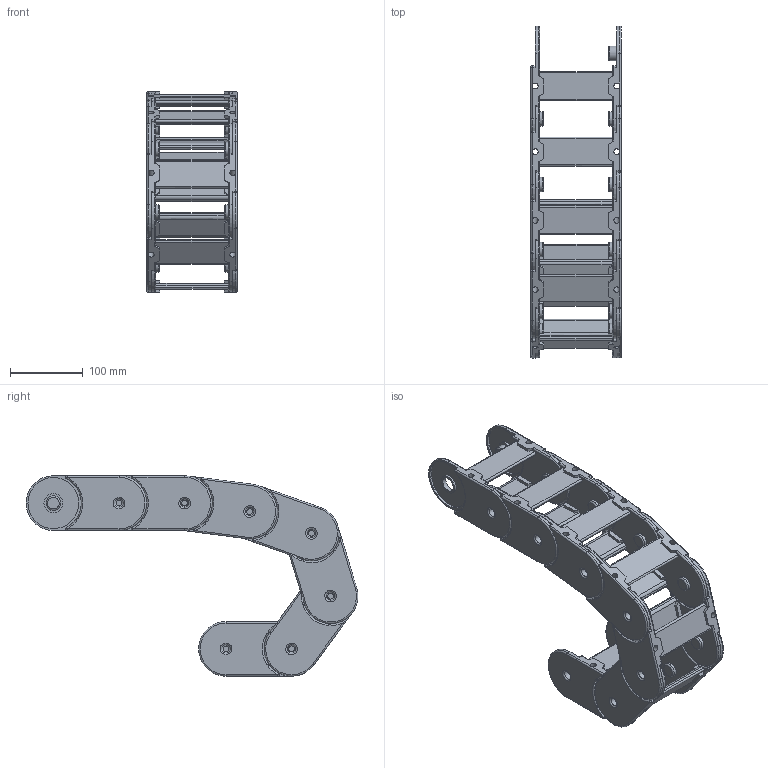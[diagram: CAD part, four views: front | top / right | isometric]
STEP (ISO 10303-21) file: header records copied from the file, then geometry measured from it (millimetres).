
FILE_DESCRIPTION((''),'2;1');
FILE_NAME('E:\Uebbing\PARAMETERKETTEN\PKK\PKK 311\PKK311vereinfacht\PKK 311 vereinfacht.stp','2017-11-13T13:13:36',('Nutzer'),(''),'Autodesk Inventor 10','Autodesk Inventor 10','');
FILE_SCHEMA(('AUTOMOTIVE_DESIGN { 1 0 10303 214 1 1 1 1 }'));
Length unit declared in the file: millimetre
Products named in the file (2): PKK 311 vereinfacht; PKK 311 Glied vereinfacht
Assembly tree (7 placements, depth 2):
  PKK 311 vereinfacht
    PKK 311 Glied vereinfacht  x7
Bounding box: 124 x 455.31 x 275 mm (x, y, z)
Volume: 1227012.3 mm3; surface area: 544492.8 mm2
Topology: 7 solids, 7 shells, 1176 faces, 3066 edges, 1890 vertices
Faces by surface type: plane 588, cylinder 350, torus 140, sphere 56, bspline 42
Full cylindrical faces by diameter (mm): 8 x14, 12 x14, 20 x14, 20.2 x14, 26 x28, 70 x28
Entity records: 5811 total; most frequent: CARTESIAN_POINT 1631, DIRECTION 912, ORIENTED_EDGE 812, EDGE_CURVE 406, AXIS2_PLACEMENT_3D 351, VERTEX_POINT 268, VECTOR 210, LINE 210
